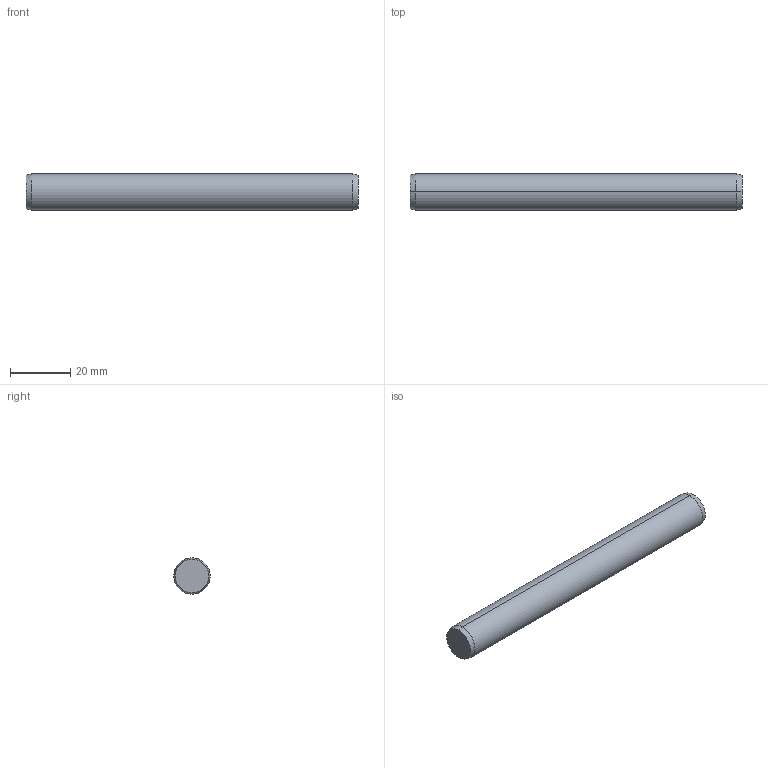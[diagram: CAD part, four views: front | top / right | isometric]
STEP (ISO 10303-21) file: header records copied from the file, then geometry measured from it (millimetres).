
FILE_DESCRIPTION (( 'STEP AP203' ), '1' );
FILE_NAME ('P1206.120-110.step', '2017-06-14T08:41:23', ( 'User' ), ( '' ), 'SwSTEP 2.0', 'SolidWorks 2009', '' );
FILE_SCHEMA (( 'CONFIG_CONTROL_DESIGN' ));
Length unit declared in the file: millimetre
Products named in the file (1): P1206.120-110
Bounding box: 110 x 12 x 12 mm (x, y, z)
Volume: 12412.3 mm3; surface area: 4339.5 mm2
Topology: 1 solids, 1 shells, 8 faces, 14 edges, 8 vertices
Faces by surface type: cone 4, cylinder 2, plane 2
Entity records: 271 total; most frequent: DIRECTION 40, CARTESIAN_POINT 31, ORIENTED_EDGE 28, AXIS2_PLACEMENT_3D 17, EDGE_CURVE 14, EDGE_LOOP 8, ADVANCED_FACE 8, VERTEX_POINT 8
